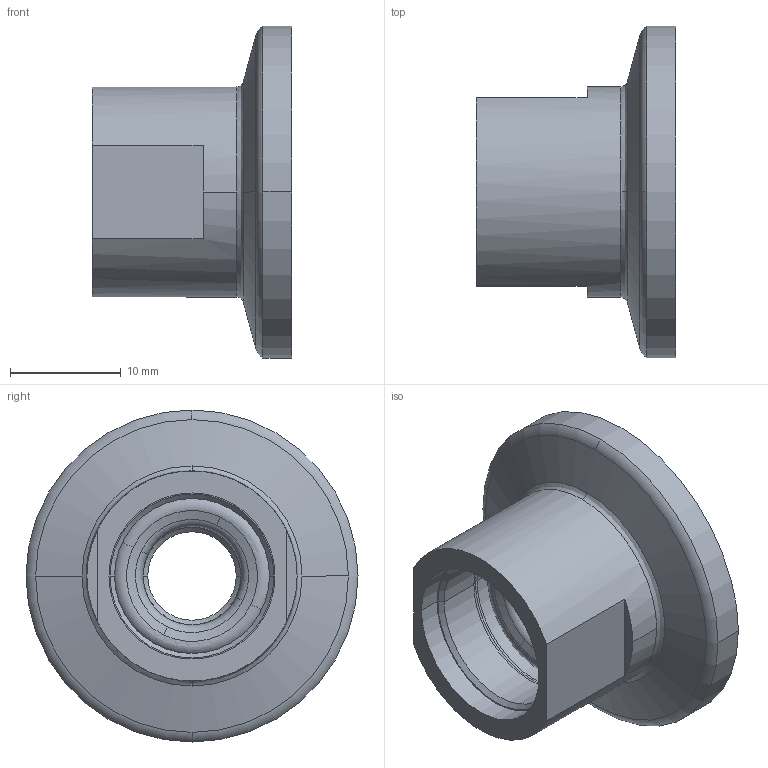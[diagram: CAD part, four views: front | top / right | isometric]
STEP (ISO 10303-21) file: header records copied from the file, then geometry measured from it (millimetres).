
FILE_DESCRIPTION((''),'2;1');
FILE_NAME('W:\C14\28450.stp','2005-02-11T14:59:01',('VCRC_L'),(''),'Autodesk Inventor 9','Autodesk Inventor 9','');
FILE_SCHEMA(('AUTOMOTIVE_DESIGN { 1 0 10303 214 1 1 1 1 }'));
Length unit declared in the file: millimetre
Products named in the file (1): 28450
Bounding box: 18 x 30 x 30 mm (x, y, z)
Volume: 4547.3 mm3; surface area: 3341.8 mm2
Topology: 1 solids, 1 shells, 57 faces, 151 edges, 99 vertices
Faces by surface type: cylinder 16, cone 14, torus 10, plane 9, bspline 8
Entity records: 2185 total; most frequent: CARTESIAN_POINT 660, DIRECTION 364, ORIENTED_EDGE 302, AXIS2_PLACEMENT_3D 163, EDGE_CURVE 151, CIRCLE 113, VERTEX_POINT 99, EDGE_LOOP 62
